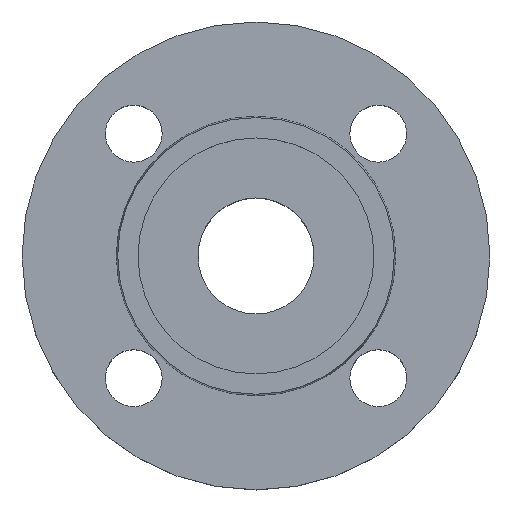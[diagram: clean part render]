
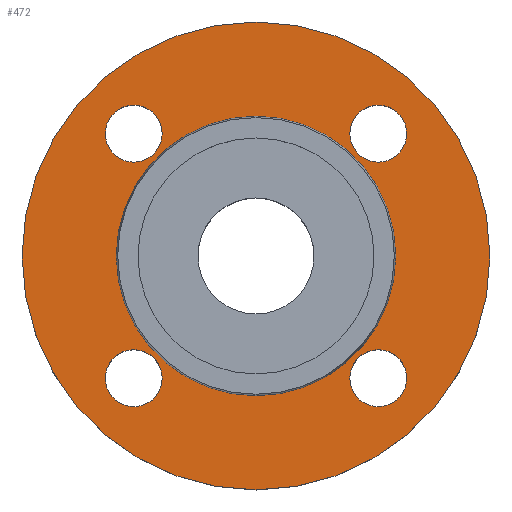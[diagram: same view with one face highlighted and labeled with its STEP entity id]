
A CAD part, top view. The second image highlights one B-rep face of the part: STEP entity #472.
In plain terms, the highlighted planar face has unit normal (0, 0, 1).
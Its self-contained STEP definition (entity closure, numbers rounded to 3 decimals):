
#11 = FACE_BOUND ( 'NONE', #848, .T. ) ;
#59 = CARTESIAN_POINT ( 'NONE',  ( 23.052, -30.052, -2. ) ) ;
#60 = CARTESIAN_POINT ( 'NONE',  ( 23.052, 30.052, -2. ) ) ;
#61 = CARTESIAN_POINT ( 'NONE',  ( -34.353, 0., -2. ) ) ;
#64 = CIRCLE ( 'NONE', #65, 34.353 ) ;
#65 = AXIS2_PLACEMENT_3D ( 'NONE', #490, #491, #494 ) ;
#70 = CARTESIAN_POINT ( 'NONE',  ( -37.052, -30.052, -2. ) ) ;
#78 = CARTESIAN_POINT ( 'NONE',  ( 37.052, 30.052, -2. ) ) ;
#90 = DIRECTION ( 'NONE',  ( 1., 0., 0. ) ) ;
#93 = DIRECTION ( 'NONE',  ( 0., 0., -1. ) ) ;
#96 = CARTESIAN_POINT ( 'NONE',  ( -30.052, 30.052, -2. ) ) ;
#97 = CARTESIAN_POINT ( 'NONE',  ( -37.052, 30.052, -2. ) ) ;
#100 = CARTESIAN_POINT ( 'NONE',  ( 34.353, 0., -2. ) ) ;
#102 = CARTESIAN_POINT ( 'NONE',  ( -23.052, 30.052, -2. ) ) ;
#106 = CIRCLE ( 'NONE', #109, 57.5 ) ;
#108 = CARTESIAN_POINT ( 'NONE',  ( 57.5, 0., -2. ) ) ;
#109 = AXIS2_PLACEMENT_3D ( 'NONE', #518, #519, #520 ) ;
#123 = DIRECTION ( 'NONE',  ( 1., 0., 0. ) ) ;
#124 = DIRECTION ( 'NONE',  ( 0., 0., -1. ) ) ;
#125 = CARTESIAN_POINT ( 'NONE',  ( -30.052, -30.052, -2. ) ) ;
#133 = CARTESIAN_POINT ( 'NONE',  ( 37.052, -30.052, -2. ) ) ;
#137 = CARTESIAN_POINT ( 'NONE',  ( -57.5, 0., -2. ) ) ;
#145 = CIRCLE ( 'NONE', #147, 7. ) ;
#147 = AXIS2_PLACEMENT_3D ( 'NONE', #573, #574, #575 ) ;
#154 = CARTESIAN_POINT ( 'NONE',  ( -23.052, -30.052, -2. ) ) ;
#156 = DIRECTION ( 'NONE',  ( 1., 0., 0. ) ) ;
#157 = DIRECTION ( 'NONE',  ( 0., 0., -1. ) ) ;
#174 = EDGE_CURVE ( 'NONE', #850, #724, #64, .T. ) ;
#192 = CIRCLE ( 'NONE', #193, 7. ) ;
#193 = AXIS2_PLACEMENT_3D ( 'NONE', #351, #327, #354 ) ;
#196 = DIRECTION ( 'NONE',  ( 1., 0., 0. ) ) ;
#197 = DIRECTION ( 'NONE',  ( 0., 0., -1. ) ) ;
#200 = CARTESIAN_POINT ( 'NONE',  ( 30.052, 30.052, -2. ) ) ;
#208 = AXIS2_PLACEMENT_3D ( 'NONE', #628, #629, #630 ) ;
#223 = EDGE_CURVE ( 'NONE', #654, #704, #106, .T. ) ;
#237 = CIRCLE ( 'NONE', #239, 34.353 ) ;
#239 = AXIS2_PLACEMENT_3D ( 'NONE', #435, #434, #433 ) ;
#241 = CIRCLE ( 'NONE', #244, 57.5 ) ;
#244 = AXIS2_PLACEMENT_3D ( 'NONE', #421, #417, #416 ) ;
#252 = CIRCLE ( 'NONE', #255, 7. ) ;
#255 = AXIS2_PLACEMENT_3D ( 'NONE', #402, #400, #399 ) ;
#270 = CIRCLE ( 'NONE', #271, 7. ) ;
#271 = AXIS2_PLACEMENT_3D ( 'NONE', #286, #283, #279 ) ;
#279 = DIRECTION ( 'NONE',  ( 1., 0., 0. ) ) ;
#283 = DIRECTION ( 'NONE',  ( 0., 0., -1. ) ) ;
#286 = CARTESIAN_POINT ( 'NONE',  ( 30.052, 30.052, -2. ) ) ;
#288 = CIRCLE ( 'NONE', #289, 7. ) ;
#289 = AXIS2_PLACEMENT_3D ( 'NONE', #200, #197, #196 ) ;
#292 = EDGE_CURVE ( 'NONE', #828, #643, #145, .T. ) ;
#308 = CIRCLE ( 'NONE', #310, 7. ) ;
#310 = AXIS2_PLACEMENT_3D ( 'NONE', #452, #157, #156 ) ;
#313 = CIRCLE ( 'NONE', #314, 7. ) ;
#314 = AXIS2_PLACEMENT_3D ( 'NONE', #125, #124, #123 ) ;
#322 = CIRCLE ( 'NONE', #328, 7. ) ;
#326 = FACE_BOUND ( 'NONE', #844, .T. ) ;
#327 = DIRECTION ( 'NONE',  ( 0., 0., -1. ) ) ;
#328 = AXIS2_PLACEMENT_3D ( 'NONE', #96, #93, #90 ) ;
#331 = FACE_BOUND ( 'NONE', #697, .T. ) ;
#332 = FACE_BOUND ( 'NONE', #853, .T. ) ;
#351 = CARTESIAN_POINT ( 'NONE',  ( 30.052, -30.052, -2. ) ) ;
#354 = DIRECTION ( 'NONE',  ( 1., 0., 0. ) ) ;
#399 = DIRECTION ( 'NONE',  ( 1., 0., 0. ) ) ;
#400 = DIRECTION ( 'NONE',  ( 0., 0., -1. ) ) ;
#402 = CARTESIAN_POINT ( 'NONE',  ( -30.052, 30.052, -2. ) ) ;
#416 = DIRECTION ( 'NONE',  ( -1., 0., 0. ) ) ;
#417 = DIRECTION ( 'NONE',  ( 0., 0., -1. ) ) ;
#421 = CARTESIAN_POINT ( 'NONE',  ( 0., 0., -2. ) ) ;
#433 = DIRECTION ( 'NONE',  ( -1., 0., 0. ) ) ;
#434 = DIRECTION ( 'NONE',  ( 0., 0., -1. ) ) ;
#435 = CARTESIAN_POINT ( 'NONE',  ( 0., 0., -2. ) ) ;
#452 = CARTESIAN_POINT ( 'NONE',  ( 30.052, -30.052, -2. ) ) ;
#457 = EDGE_CURVE ( 'NONE', #856, #660, #192, .T. ) ;
#472 = ADVANCED_FACE ( 'NONE', ( #326, #11, #331, #619, #332, #631 ), #627, .T. ) ;
#490 = CARTESIAN_POINT ( 'NONE',  ( 0., 0., -2. ) ) ;
#491 = DIRECTION ( 'NONE',  ( 0., 0., -1. ) ) ;
#494 = DIRECTION ( 'NONE',  ( -1., 0., 0. ) ) ;
#518 = CARTESIAN_POINT ( 'NONE',  ( 0., 0., -2. ) ) ;
#519 = DIRECTION ( 'NONE',  ( 0., 0., -1. ) ) ;
#520 = DIRECTION ( 'NONE',  ( -1., 0., 0. ) ) ;
#527 = EDGE_CURVE ( 'NONE', #724, #850, #237, .T. ) ;
#531 = EDGE_CURVE ( 'NONE', #704, #654, #241, .T. ) ;
#539 = EDGE_CURVE ( 'NONE', #735, #718, #252, .T. ) ;
#559 = EDGE_CURVE ( 'NONE', #791, #852, #270, .T. ) ;
#573 = CARTESIAN_POINT ( 'NONE',  ( -30.052, -30.052, -2. ) ) ;
#574 = DIRECTION ( 'NONE',  ( 0., 0., -1. ) ) ;
#575 = DIRECTION ( 'NONE',  ( 1., 0., 0. ) ) ;
#618 = EDGE_CURVE ( 'NONE', #852, #791, #288, .T. ) ;
#619 = FACE_BOUND ( 'NONE', #801, .T. ) ;
#627 = PLANE ( 'NONE',  #208 ) ;
#628 = CARTESIAN_POINT ( 'NONE',  ( 34.353, 0., -2. ) ) ;
#629 = DIRECTION ( 'NONE',  ( 0., 0., 1. ) ) ;
#630 = DIRECTION ( 'NONE',  ( 1., 0., 0. ) ) ;
#631 = FACE_OUTER_BOUND ( 'NONE', #688, .T. ) ;
#641 = EDGE_CURVE ( 'NONE', #660, #856, #308, .T. ) ;
#643 = VERTEX_POINT ( 'NONE', #154 ) ;
#654 = VERTEX_POINT ( 'NONE', #137 ) ;
#660 = VERTEX_POINT ( 'NONE', #133 ) ;
#668 = EDGE_CURVE ( 'NONE', #643, #828, #313, .T. ) ;
#688 = EDGE_LOOP ( 'NONE', ( #762, #763 ) ) ;
#697 = EDGE_LOOP ( 'NONE', ( #756, #757 ) ) ;
#704 = VERTEX_POINT ( 'NONE', #108 ) ;
#718 = VERTEX_POINT ( 'NONE', #102 ) ;
#724 = VERTEX_POINT ( 'NONE', #100 ) ;
#735 = VERTEX_POINT ( 'NONE', #97 ) ;
#741 = EDGE_CURVE ( 'NONE', #718, #735, #322, .T. ) ;
#752 = ORIENTED_EDGE ( 'NONE', *, *, #641, .T. ) ;
#753 = ORIENTED_EDGE ( 'NONE', *, *, #457, .T. ) ;
#754 = ORIENTED_EDGE ( 'NONE', *, *, #668, .T. ) ;
#755 = ORIENTED_EDGE ( 'NONE', *, *, #292, .T. ) ;
#756 = ORIENTED_EDGE ( 'NONE', *, *, #741, .T. ) ;
#757 = ORIENTED_EDGE ( 'NONE', *, *, #539, .T. ) ;
#758 = ORIENTED_EDGE ( 'NONE', *, *, #559, .T. ) ;
#759 = ORIENTED_EDGE ( 'NONE', *, *, #618, .T. ) ;
#760 = ORIENTED_EDGE ( 'NONE', *, *, #174, .T. ) ;
#761 = ORIENTED_EDGE ( 'NONE', *, *, #527, .T. ) ;
#762 = ORIENTED_EDGE ( 'NONE', *, *, #531, .F. ) ;
#763 = ORIENTED_EDGE ( 'NONE', *, *, #223, .F. ) ;
#791 = VERTEX_POINT ( 'NONE', #78 ) ;
#801 = EDGE_LOOP ( 'NONE', ( #758, #759 ) ) ;
#828 = VERTEX_POINT ( 'NONE', #70 ) ;
#844 = EDGE_LOOP ( 'NONE', ( #752, #753 ) ) ;
#848 = EDGE_LOOP ( 'NONE', ( #754, #755 ) ) ;
#850 = VERTEX_POINT ( 'NONE', #61 ) ;
#852 = VERTEX_POINT ( 'NONE', #60 ) ;
#853 = EDGE_LOOP ( 'NONE', ( #760, #761 ) ) ;
#856 = VERTEX_POINT ( 'NONE', #59 ) ;
